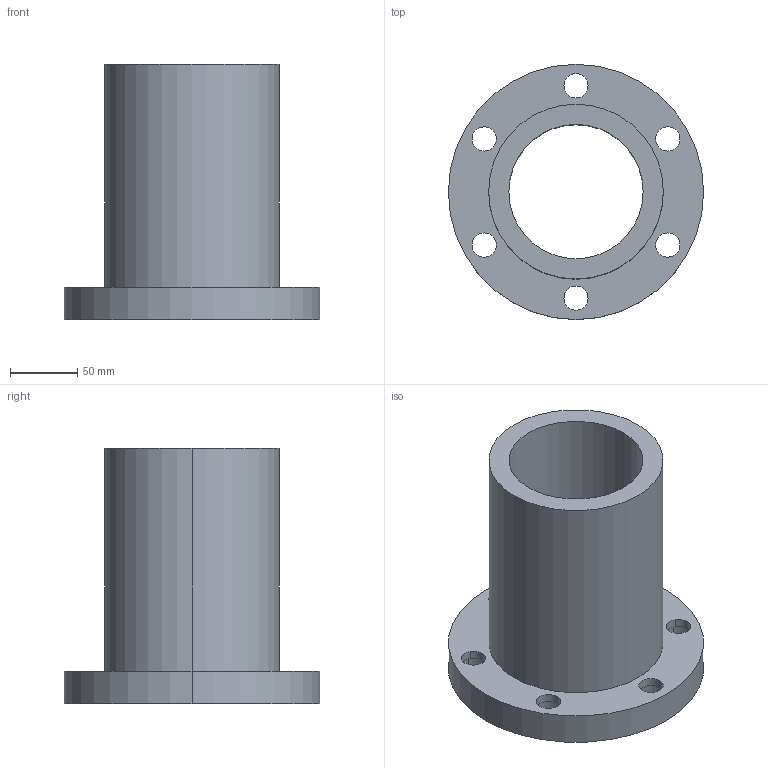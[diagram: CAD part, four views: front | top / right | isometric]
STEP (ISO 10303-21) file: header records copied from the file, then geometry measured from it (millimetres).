
FILE_DESCRIPTION((''),'2;1');
FILE_NAME('100-12T4','2008-04-05T',('cmliu'),(''),'PRO/ENGINEER BY PARAMETRIC TECHNOLOGY CORPORATION, 2004110','PRO/ENGINEER BY PARAMETRIC TECHNOLOGY CORPORATION, 2004110','');
FILE_SCHEMA(('CONFIG_CONTROL_DESIGN'));
Length unit declared in the file: millimetre
Products named in the file (1): 100-12T4
Bounding box: 190 x 190 x 190 mm (x, y, z)
Volume: 1325896.6 mm3; surface area: 190537.6 mm2
Topology: 1 solids, 1 shells, 39 faces, 98 edges, 68 vertices
Faces by surface type: cylinder 30, plane 9
Entity records: 1290 total; most frequent: DIRECTION 244, CARTESIAN_POINT 205, ORIENTED_EDGE 196, AXIS2_PLACEMENT_3D 107, EDGE_CURVE 98, VERTEX_POINT 68, CIRCLE 68, EDGE_LOOP 60
